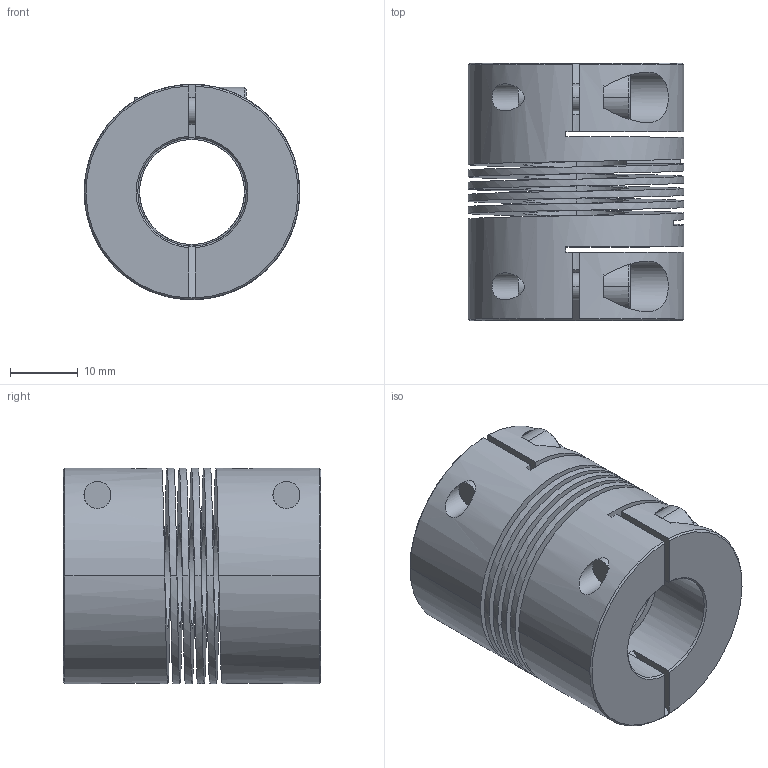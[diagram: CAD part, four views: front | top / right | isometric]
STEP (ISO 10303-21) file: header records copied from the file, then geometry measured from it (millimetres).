
FILE_DESCRIPTION((''),'2;1');
FILE_NAME('827_32','2006-12-06T',('Gary Melling'),(''),'PRO/ENGINEER BY PARAMETRIC TECHNOLOGY CORPORATION, 2006240','PRO/ENGINEER BY PARAMETRIC TECHNOLOGY CORPORATION, 2006240','');
FILE_SCHEMA(('CONFIG_CONTROL_DESIGN'));
Length unit declared in the file: millimetre
Products named in the file (1): 827_32
Bounding box: 31.8 x 38 x 31.79 mm (x, y, z)
Volume: 19211.3 mm3; surface area: 14416.6 mm2
Topology: 1 solids, 1 shells, 103 faces, 279 edges, 182 vertices
Faces by surface type: plane 48, cylinder 41, cone 10, bspline 4
Entity records: 4768 total; most frequent: CARTESIAN_POINT 2203, ORIENTED_EDGE 558, DIRECTION 477, EDGE_CURVE 279, VERTEX_POINT 182, AXIS2_PLACEMENT_3D 169, VECTOR 139, LINE 139
